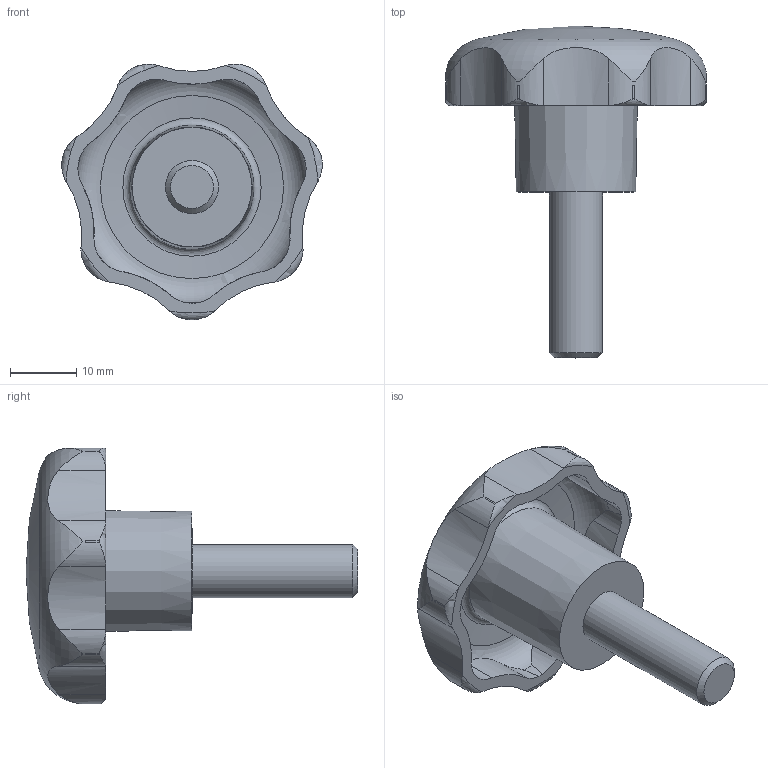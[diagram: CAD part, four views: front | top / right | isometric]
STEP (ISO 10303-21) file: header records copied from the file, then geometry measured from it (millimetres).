
FILE_DESCRIPTION( ( 'STEP AP203' ), '1' );
FILE_NAME( 'C:/Temp/Ganter_Step_05_03_2020/data/2_2/gn_6336_4/gn_6336_4_st/Star knob GN 6336.4-ST-40-M8-25.stp', '2020-03-05T12:07:28', ( 'License CC BY-ND 4.0' ), ( 'CADENAS' ), ' ', 'PARTsolutions', ' ' );
FILE_SCHEMA( ( 'CONFIG_CONTROL_DESIGN' ) );
Length unit declared in the file: millimetre
Products named in the file (1): _Star knob GN 6336.4-ST-40-M8-25
Bounding box: 39.25 x 50 x 38.52 mm (x, y, z)
Volume: 12059.6 mm3; surface area: 5511.5 mm2
Topology: 1 solids, 1 shells, 74 faces, 208 edges, 137 vertices
Faces by surface type: cylinder 43, torus 17, cone 10, plane 3, sphere 1
Full cylindrical faces by diameter (mm): 8 x1
Entity records: 3288 total; most frequent: CARTESIAN_POINT 1437, ORIENTED_EDGE 394, DIRECTION 362, EDGE_CURVE 197, AXIS2_PLACEMENT_3D 160, VERTEX_POINT 135, CIRCLE 85, EDGE_LOOP 83
